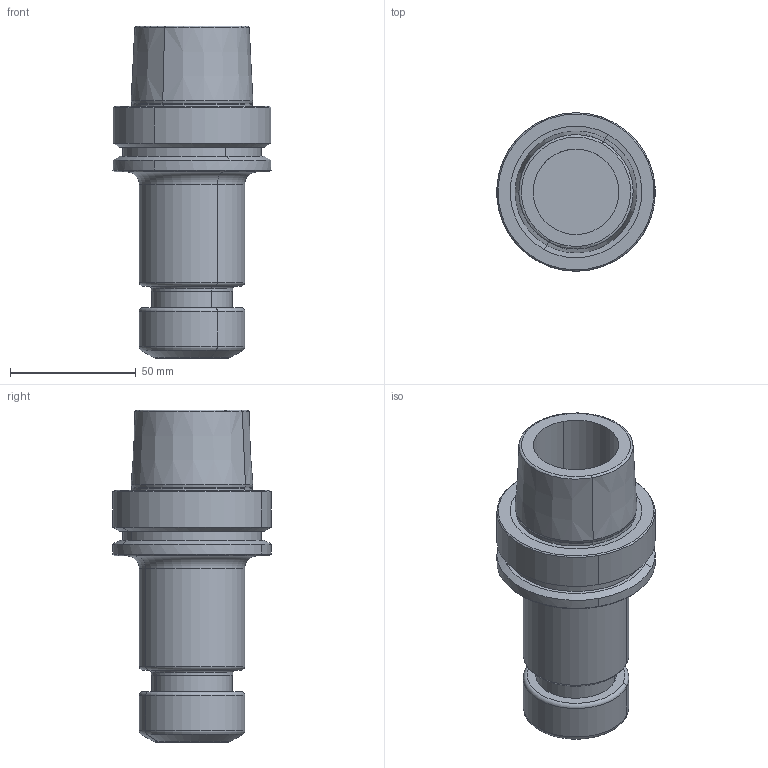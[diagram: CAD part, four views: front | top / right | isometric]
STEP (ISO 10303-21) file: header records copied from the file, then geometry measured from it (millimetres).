
FILE_DESCRIPTION(('CATIA V5 STEP','CAx-IF Rec.Pracs.--- Model Styling and Organization---1.2---2011-12-15'),'2;1');
FILE_NAME('\\nas01\drv1\utils\eitdev\rte\eit\transmagicconvert\db\out\635930174618209851\4561020-L-B.stp','2016-03-08T05:04:33+00:00',('none'),('none'),'CATIA Version 5 Release 21 SP 5 (IN-10)','CATIA V5 STEP AP214','none');
FILE_SCHEMA(('AUTOMOTIVE_DESIGN { 1 0 10303 214 1 1 1 1 }'));
Length unit declared in the file: millimetre
Products named in the file (1): HSK A 63 ER25X100
Bounding box: 62.98 x 63 x 132 mm (x, y, z)
Volume: 175339.6 mm3; surface area: 33907.5 mm2
Topology: 1 solids, 1 shells, 72 faces, 156 edges, 93 vertices
Faces by surface type: cylinder 24, cone 22, torus 16, plane 10
Entity records: 1835 total; most frequent: CARTESIAN_POINT 396, ORIENTED_EDGE 308, DIRECTION 234, EDGE_CURVE 154, AXIS2_PLACEMENT_3D 146, CIRCLE 102, VERTEX_POINT 93, EDGE_LOOP 81
